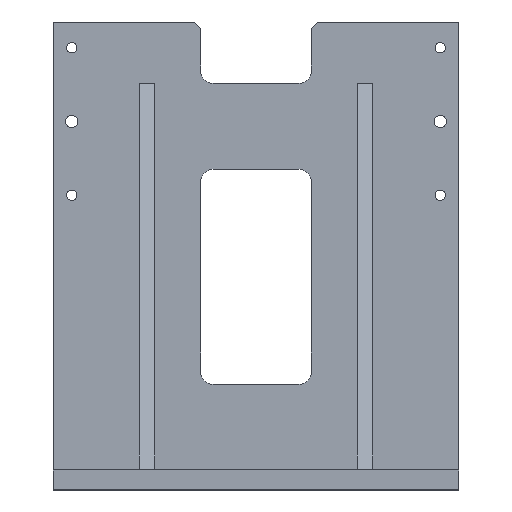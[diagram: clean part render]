
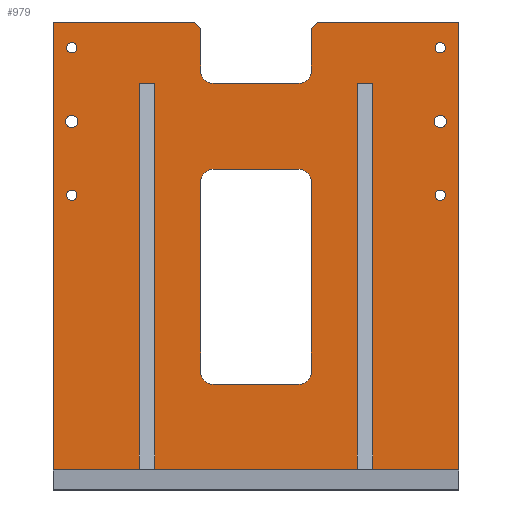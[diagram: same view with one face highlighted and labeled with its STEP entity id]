
A CAD part, top view. The second image highlights one B-rep face of the part: STEP entity #979.
In plain terms, the highlighted planar face has unit normal (0, 0, 1).
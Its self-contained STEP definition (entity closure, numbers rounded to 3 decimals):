
#19=FACE_BOUND($,#149,.T.);
#20=FACE_BOUND($,#150,.T.);
#21=FACE_BOUND($,#151,.T.);
#22=FACE_BOUND($,#152,.T.);
#23=FACE_BOUND($,#153,.T.);
#24=FACE_BOUND($,#154,.T.);
#25=FACE_BOUND($,#155,.T.);
#26=FACE_BOUND($,#156,.T.);
#65=PLANE($,#1047);
#149=EDGE_LOOP($,(#739,#740,#741,#742,#743,#744,#745,#746));
#150=EDGE_LOOP($,(#747,#748,#749,#750,#751,#752,#753,#754,#755,#756,#757,
#758,#759,#760,#761,#762,#763,#764,#765,#766));
#151=EDGE_LOOP($,(#767));
#152=EDGE_LOOP($,(#768));
#153=EDGE_LOOP($,(#769));
#154=EDGE_LOOP($,(#770));
#155=EDGE_LOOP($,(#771));
#156=EDGE_LOOP($,(#772));
#215=LINE($,#1371,#305);
#218=LINE($,#1382,#308);
#223=LINE($,#1395,#313);
#225=LINE($,#1403,#315);
#244=LINE($,#1458,#334);
#248=LINE($,#1464,#338);
#250=LINE($,#1469,#340);
#252=LINE($,#1473,#342);
#256=LINE($,#1484,#346);
#257=LINE($,#1487,#347);
#258=LINE($,#1489,#348);
#259=LINE($,#1491,#349);
#260=LINE($,#1493,#350);
#261=LINE($,#1495,#351);
#262=LINE($,#1497,#352);
#263=LINE($,#1499,#353);
#264=LINE($,#1501,#354);
#265=LINE($,#1503,#355);
#266=LINE($,#1505,#356);
#267=LINE($,#1507,#357);
#268=LINE($,#1509,#358);
#269=LINE($,#1510,#359);
#305=VECTOR($,#1110,155.);
#308=VECTOR($,#1121,70.);
#313=VECTOR($,#1134,70.);
#315=VECTOR($,#1144,155.);
#334=VECTOR($,#1187,7.071);
#338=VECTOR($,#1193,35.);
#340=VECTOR($,#1197,7.071);
#342=VECTOR($,#1201,35.);
#346=VECTOR($,#1215,70.);
#347=VECTOR($,#1218,115.);
#348=VECTOR($,#1219,365.);
#349=VECTOR($,#1220,70.);
#350=VECTOR($,#1221,315.);
#351=VECTOR($,#1222,12.7);
#352=VECTOR($,#1223,315.);
#353=VECTOR($,#1224,164.6);
#354=VECTOR($,#1225,315.);
#355=VECTOR($,#1226,12.7);
#356=VECTOR($,#1227,315.);
#357=VECTOR($,#1228,70.);
#358=VECTOR($,#1229,365.);
#359=VECTOR($,#1230,115.);
#390=CIRCLE($,#1013,10.);
#392=CIRCLE($,#1017,10.);
#394=CIRCLE($,#1021,10.);
#396=CIRCLE($,#1025,10.);
#405=CIRCLE($,#1043,10.);
#406=CIRCLE($,#1045,10.);
#407=CIRCLE($,#1048,5.);
#408=CIRCLE($,#1049,5.);
#409=CIRCLE($,#1050,4.188);
#410=CIRCLE($,#1051,4.188);
#411=CIRCLE($,#1052,4.188);
#412=CIRCLE($,#1053,4.188);
#427=VERTEX_POINT($,#1357);
#428=VERTEX_POINT($,#1359);
#432=VERTEX_POINT($,#1369);
#435=VERTEX_POINT($,#1376);
#436=VERTEX_POINT($,#1378);
#438=VERTEX_POINT($,#1387);
#440=VERTEX_POINT($,#1393);
#442=VERTEX_POINT($,#1399);
#465=VERTEX_POINT($,#1456);
#466=VERTEX_POINT($,#1457);
#467=VERTEX_POINT($,#1462);
#468=VERTEX_POINT($,#1466);
#469=VERTEX_POINT($,#1468);
#470=VERTEX_POINT($,#1472);
#471=VERTEX_POINT($,#1476);
#472=VERTEX_POINT($,#1480);
#473=VERTEX_POINT($,#1486);
#474=VERTEX_POINT($,#1488);
#475=VERTEX_POINT($,#1490);
#476=VERTEX_POINT($,#1492);
#477=VERTEX_POINT($,#1494);
#478=VERTEX_POINT($,#1496);
#479=VERTEX_POINT($,#1498);
#480=VERTEX_POINT($,#1500);
#481=VERTEX_POINT($,#1502);
#482=VERTEX_POINT($,#1504);
#483=VERTEX_POINT($,#1506);
#484=VERTEX_POINT($,#1508);
#485=VERTEX_POINT($,#1511);
#486=VERTEX_POINT($,#1513);
#487=VERTEX_POINT($,#1515);
#488=VERTEX_POINT($,#1517);
#489=VERTEX_POINT($,#1519);
#490=VERTEX_POINT($,#1521);
#519=EDGE_CURVE($,#427,#428,#390,.T.);
#525=EDGE_CURVE($,#427,#432,#215,.T.);
#528=EDGE_CURVE($,#435,#436,#392,.T.);
#530=EDGE_CURVE($,#435,#428,#218,.T.);
#534=EDGE_CURVE($,#438,#432,#394,.T.);
#537=EDGE_CURVE($,#438,#440,#223,.T.);
#540=EDGE_CURVE($,#442,#440,#396,.T.);
#541=EDGE_CURVE($,#442,#436,#225,.T.);
#568=EDGE_CURVE($,#465,#466,#244,.T.);
#572=EDGE_CURVE($,#465,#467,#248,.T.);
#574=EDGE_CURVE($,#468,#469,#250,.T.);
#576=EDGE_CURVE($,#470,#469,#252,.T.);
#578=EDGE_CURVE($,#471,#467,#405,.T.);
#580=EDGE_CURVE($,#470,#472,#406,.T.);
#582=EDGE_CURVE($,#471,#472,#256,.T.);
#583=EDGE_CURVE($,#468,#473,#257,.T.);
#584=EDGE_CURVE($,#473,#474,#258,.T.);
#585=EDGE_CURVE($,#474,#475,#259,.T.);
#586=EDGE_CURVE($,#475,#476,#260,.T.);
#587=EDGE_CURVE($,#476,#477,#261,.T.);
#588=EDGE_CURVE($,#477,#478,#262,.T.);
#589=EDGE_CURVE($,#478,#479,#263,.T.);
#590=EDGE_CURVE($,#479,#480,#264,.T.);
#591=EDGE_CURVE($,#480,#481,#265,.T.);
#592=EDGE_CURVE($,#481,#482,#266,.T.);
#593=EDGE_CURVE($,#482,#483,#267,.T.);
#594=EDGE_CURVE($,#483,#484,#268,.T.);
#595=EDGE_CURVE($,#484,#466,#269,.T.);
#596=EDGE_CURVE($,#485,#485,#407,.T.);
#597=EDGE_CURVE($,#486,#486,#408,.T.);
#598=EDGE_CURVE($,#487,#487,#409,.T.);
#599=EDGE_CURVE($,#488,#488,#410,.T.);
#600=EDGE_CURVE($,#489,#489,#411,.T.);
#601=EDGE_CURVE($,#490,#490,#412,.T.);
#739=ORIENTED_EDGE($,*,*,#525,.T.);
#740=ORIENTED_EDGE($,*,*,#534,.F.);
#741=ORIENTED_EDGE($,*,*,#537,.T.);
#742=ORIENTED_EDGE($,*,*,#540,.F.);
#743=ORIENTED_EDGE($,*,*,#541,.T.);
#744=ORIENTED_EDGE($,*,*,#528,.F.);
#745=ORIENTED_EDGE($,*,*,#530,.T.);
#746=ORIENTED_EDGE($,*,*,#519,.F.);
#747=ORIENTED_EDGE($,*,*,#568,.F.);
#748=ORIENTED_EDGE($,*,*,#572,.T.);
#749=ORIENTED_EDGE($,*,*,#578,.F.);
#750=ORIENTED_EDGE($,*,*,#582,.T.);
#751=ORIENTED_EDGE($,*,*,#580,.F.);
#752=ORIENTED_EDGE($,*,*,#576,.T.);
#753=ORIENTED_EDGE($,*,*,#574,.F.);
#754=ORIENTED_EDGE($,*,*,#583,.T.);
#755=ORIENTED_EDGE($,*,*,#584,.T.);
#756=ORIENTED_EDGE($,*,*,#585,.T.);
#757=ORIENTED_EDGE($,*,*,#586,.T.);
#758=ORIENTED_EDGE($,*,*,#587,.T.);
#759=ORIENTED_EDGE($,*,*,#588,.T.);
#760=ORIENTED_EDGE($,*,*,#589,.T.);
#761=ORIENTED_EDGE($,*,*,#590,.T.);
#762=ORIENTED_EDGE($,*,*,#591,.T.);
#763=ORIENTED_EDGE($,*,*,#592,.T.);
#764=ORIENTED_EDGE($,*,*,#593,.T.);
#765=ORIENTED_EDGE($,*,*,#594,.T.);
#766=ORIENTED_EDGE($,*,*,#595,.T.);
#767=ORIENTED_EDGE($,*,*,#596,.T.);
#768=ORIENTED_EDGE($,*,*,#597,.T.);
#769=ORIENTED_EDGE($,*,*,#598,.T.);
#770=ORIENTED_EDGE($,*,*,#599,.T.);
#771=ORIENTED_EDGE($,*,*,#600,.T.);
#772=ORIENTED_EDGE($,*,*,#601,.T.);
#979=ADVANCED_FACE($,(#19,#20,#21,#22,#23,#24,#25,#26),#65,.T.);
#1013=AXIS2_PLACEMENT_3D($,#1360,#1101,#1102);
#1017=AXIS2_PLACEMENT_3D($,#1379,#1116,#1117);
#1021=AXIS2_PLACEMENT_3D($,#1389,#1128,#1129);
#1025=AXIS2_PLACEMENT_3D($,#1401,#1140,#1141);
#1043=AXIS2_PLACEMENT_3D($,#1477,#1205,#1206);
#1045=AXIS2_PLACEMENT_3D($,#1481,#1210,#1211);
#1047=AXIS2_PLACEMENT_3D($,#1485,#1216,#1217);
#1048=AXIS2_PLACEMENT_3D($,#1512,#1231,#1232);
#1049=AXIS2_PLACEMENT_3D($,#1514,#1233,#1234);
#1050=AXIS2_PLACEMENT_3D($,#1516,#1235,#1236);
#1051=AXIS2_PLACEMENT_3D($,#1518,#1237,#1238);
#1052=AXIS2_PLACEMENT_3D($,#1520,#1239,#1240);
#1053=AXIS2_PLACEMENT_3D($,#1522,#1241,#1242);
#1101=DIRECTION('center_axis',(0.,0.,1.));
#1102=DIRECTION('ref_axis',(-0.707,-0.707,0.));
#1110=DIRECTION($,(0.,1.,0.));
#1116=DIRECTION('center_axis',(0.,0.,1.));
#1117=DIRECTION('ref_axis',(0.707,-0.707,0.));
#1121=DIRECTION($,(-1.,0.,0.));
#1128=DIRECTION('center_axis',(0.,0.,1.));
#1129=DIRECTION('ref_axis',(-0.707,0.707,0.));
#1134=DIRECTION($,(1.,0.,0.));
#1140=DIRECTION('center_axis',(0.,0.,1.));
#1141=DIRECTION('ref_axis',(0.707,0.707,0.));
#1144=DIRECTION($,(0.,-1.,0.));
#1187=DIRECTION($,(0.707,0.707,0.));
#1193=DIRECTION($,(0.,-1.,0.));
#1197=DIRECTION($,(0.707,-0.707,0.));
#1201=DIRECTION($,(0.,1.,0.));
#1205=DIRECTION('center_axis',(0.,0.,1.));
#1206=DIRECTION('ref_axis',(0.707,-0.707,0.));
#1210=DIRECTION('center_axis',(0.,0.,1.));
#1211=DIRECTION('ref_axis',(-0.707,-0.707,0.));
#1215=DIRECTION($,(-1.,0.,0.));
#1216=DIRECTION('center_axis',(0.,0.,1.));
#1217=DIRECTION('ref_axis',(1.,0.,0.));
#1218=DIRECTION($,(-1.,0.,0.));
#1219=DIRECTION($,(0.,-1.,0.));
#1220=DIRECTION($,(1.,0.,0.));
#1221=DIRECTION($,(0.,1.,0.));
#1222=DIRECTION($,(1.,0.,0.));
#1223=DIRECTION($,(0.,-1.,0.));
#1224=DIRECTION($,(1.,0.,0.));
#1225=DIRECTION($,(0.,1.,0.));
#1226=DIRECTION($,(1.,0.,0.));
#1227=DIRECTION($,(0.,-1.,0.));
#1228=DIRECTION($,(1.,0.,0.));
#1229=DIRECTION($,(0.,1.,0.));
#1230=DIRECTION($,(-1.,0.,0.));
#1231=DIRECTION('center_axis',(0.,0.,-1.));
#1232=DIRECTION('ref_axis',(-1.,0.,0.));
#1233=DIRECTION('center_axis',(0.,0.,-1.));
#1234=DIRECTION('ref_axis',(-1.,0.,0.));
#1235=DIRECTION('center_axis',(0.,0.,-1.));
#1236=DIRECTION('ref_axis',(-1.,0.,0.));
#1237=DIRECTION('center_axis',(0.,0.,-1.));
#1238=DIRECTION('ref_axis',(-1.,0.,0.));
#1239=DIRECTION('center_axis',(0.,0.,-1.));
#1240=DIRECTION('ref_axis',(-1.,0.,0.));
#1241=DIRECTION('center_axis',(0.,0.,-1.));
#1242=DIRECTION('ref_axis',(-1.,0.,0.));
#1357=CARTESIAN_POINT('',(-45.,-102.5,19.05));
#1359=CARTESIAN_POINT('',(-35.,-112.5,19.05));
#1360=CARTESIAN_POINT('Origin',(-35.,-102.5,19.05));
#1369=CARTESIAN_POINT('',(-45.,52.5,19.05));
#1371=CARTESIAN_POINT($,(-45.,31.25,19.05));
#1376=CARTESIAN_POINT('',(35.,-112.5,19.05));
#1378=CARTESIAN_POINT('',(45.,-102.5,19.05));
#1379=CARTESIAN_POINT('Origin',(35.,-102.5,19.05));
#1382=CARTESIAN_POINT($,(-22.5,-112.5,19.05));
#1387=CARTESIAN_POINT('',(-35.,62.5,19.05));
#1389=CARTESIAN_POINT('Origin',(-35.,52.5,19.05));
#1393=CARTESIAN_POINT('',(35.,62.5,19.05));
#1395=CARTESIAN_POINT($,(22.5,62.5,19.05));
#1399=CARTESIAN_POINT('',(45.,52.5,19.05));
#1401=CARTESIAN_POINT('Origin',(35.,52.5,19.05));
#1403=CARTESIAN_POINT($,(45.,-56.25,19.05));
#1456=CARTESIAN_POINT('',(45.,177.5,19.05));
#1457=CARTESIAN_POINT('',(50.,182.5,19.05));
#1458=CARTESIAN_POINT($,(-9.375,123.125,19.05));
#1462=CARTESIAN_POINT('',(45.,142.5,19.05));
#1464=CARTESIAN_POINT($,(45.,91.25,19.05));
#1466=CARTESIAN_POINT('',(-50.,182.5,19.05));
#1468=CARTESIAN_POINT('',(-45.,177.5,19.05));
#1469=CARTESIAN_POINT($,(9.375,123.125,19.05));
#1472=CARTESIAN_POINT('',(-45.,142.5,19.05));
#1473=CARTESIAN_POINT($,(-45.,66.25,19.05));
#1476=CARTESIAN_POINT('',(35.,132.5,19.05));
#1477=CARTESIAN_POINT('Origin',(35.,142.5,19.05));
#1480=CARTESIAN_POINT('',(-35.,132.5,19.05));
#1481=CARTESIAN_POINT('Origin',(-35.,142.5,19.05));
#1484=CARTESIAN_POINT($,(22.5,132.5,19.05));
#1485=CARTESIAN_POINT('Origin',(0.,0.,
19.05));
#1486=CARTESIAN_POINT('',(-165.,182.5,19.05));
#1487=CARTESIAN_POINT($,(-165.,182.5,19.05));
#1488=CARTESIAN_POINT('',(-165.,-182.5,19.05));
#1489=CARTESIAN_POINT($,(-165.,-182.5,19.05));
#1490=CARTESIAN_POINT('',(-95.,-182.5,19.05));
#1491=CARTESIAN_POINT($,(165.,-182.5,19.05));
#1492=CARTESIAN_POINT('',(-95.,132.5,19.05));
#1493=CARTESIAN_POINT($,(-95.,-25.295,19.05));
#1494=CARTESIAN_POINT('',(-82.3,132.5,19.05));
#1495=CARTESIAN_POINT($,(-47.5,132.5,19.05));
#1496=CARTESIAN_POINT('',(-82.3,-182.5,19.05));
#1497=CARTESIAN_POINT($,(-82.3,-25.295,19.05));
#1498=CARTESIAN_POINT('',(82.3,-182.5,19.05));
#1499=CARTESIAN_POINT($,(165.,-182.5,19.05));
#1500=CARTESIAN_POINT('',(82.3,132.5,19.05));
#1501=CARTESIAN_POINT($,(82.3,-25.295,19.05));
#1502=CARTESIAN_POINT('',(95.,132.5,19.05));
#1503=CARTESIAN_POINT($,(47.5,132.5,19.05));
#1504=CARTESIAN_POINT('',(95.,-182.5,19.05));
#1505=CARTESIAN_POINT($,(95.,-25.295,19.05));
#1506=CARTESIAN_POINT('',(165.,-182.5,19.05));
#1507=CARTESIAN_POINT($,(165.,-182.5,19.05));
#1508=CARTESIAN_POINT('',(165.,182.5,19.05));
#1509=CARTESIAN_POINT($,(165.,182.5,19.05));
#1510=CARTESIAN_POINT($,(-165.,182.5,19.05));
#1511=CARTESIAN_POINT('',(-145.,101.5,19.05));
#1512=CARTESIAN_POINT('Origin',(-150.,101.5,19.05));
#1513=CARTESIAN_POINT('',(155.,101.5,19.05));
#1514=CARTESIAN_POINT('Origin',(150.,101.5,19.05));
#1515=CARTESIAN_POINT('',(-145.812,41.5,19.05));
#1516=CARTESIAN_POINT('Origin',(-150.,41.5,19.05));
#1517=CARTESIAN_POINT('',(154.188,161.5,19.05));
#1518=CARTESIAN_POINT('Origin',(150.,161.5,19.05));
#1519=CARTESIAN_POINT('',(154.188,41.5,19.05));
#1520=CARTESIAN_POINT('Origin',(150.,41.5,19.05));
#1521=CARTESIAN_POINT('',(-145.812,161.5,19.05));
#1522=CARTESIAN_POINT('Origin',(-150.,161.5,19.05));
